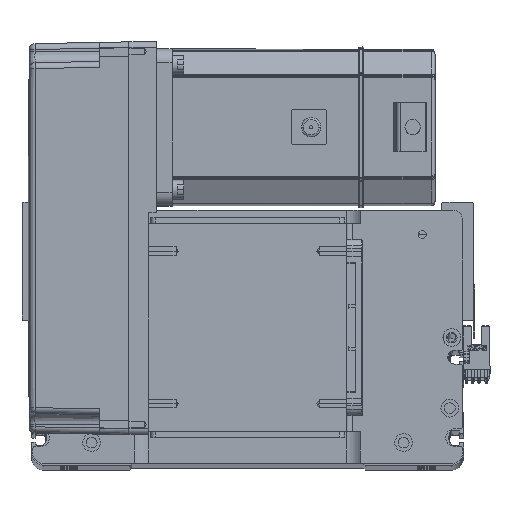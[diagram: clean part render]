
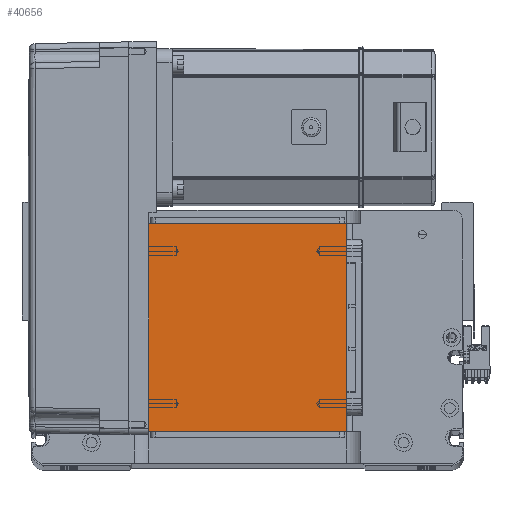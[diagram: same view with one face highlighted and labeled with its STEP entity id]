
A CAD part, top view. The second image highlights one B-rep face of the part: STEP entity #40656.
In plain terms, the highlighted planar face has unit normal (0, 0, 1).
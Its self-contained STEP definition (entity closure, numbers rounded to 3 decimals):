
#4985 = CARTESIAN_POINT ( 'NONE',  ( 50.5, 16., 115. ) ) ;
#5249 = EDGE_LOOP ( 'NONE', ( #12866, #19424, #46088, #21496 ) ) ;
#11528 = FACE_OUTER_BOUND ( 'NONE', #5249, .T. ) ;
#12019 = DIRECTION ( 'NONE',  ( -1., 0., 0. ) ) ;
#12866 = ORIENTED_EDGE ( 'NONE', *, *, #31229, .T. ) ;
#16225 = DIRECTION ( 'NONE',  ( 0., -1., 0. ) ) ;
#17628 = AXIS2_PLACEMENT_3D ( 'NONE', #17987, #46784, #51456 ) ;
#17987 = CARTESIAN_POINT ( 'NONE',  ( 0., 0., 115. ) ) ;
#18087 = CARTESIAN_POINT ( 'NONE',  ( 50.5, 122., 115. ) ) ;
#18533 = PLANE ( 'NONE',  #17628 ) ;
#19424 = ORIENTED_EDGE ( 'NONE', *, *, #28074, .T. ) ;
#19930 = CARTESIAN_POINT ( 'NONE',  ( -50.5, 122., 115. ) ) ;
#21496 = ORIENTED_EDGE ( 'NONE', *, *, #37465, .T. ) ;
#24085 = DIRECTION ( 'NONE',  ( 1., 0., 0. ) ) ;
#25444 = DIRECTION ( 'NONE',  ( 0., 1., 0. ) ) ;
#28074 = EDGE_CURVE ( 'NONE', #37269, #51031, #47184, .T. ) ;
#28453 = CARTESIAN_POINT ( 'NONE',  ( -50.5, 16., 115. ) ) ;
#28814 = CARTESIAN_POINT ( 'NONE',  ( -50.5, 122., 115. ) ) ;
#31229 = EDGE_CURVE ( 'NONE', #33760, #37269, #43053, .T. ) ;
#31702 = VECTOR ( 'NONE', #25444, 1000. ) ;
#32049 = VERTEX_POINT ( 'NONE', #18087 ) ;
#33586 = CARTESIAN_POINT ( 'NONE',  ( 50.5, 122., 115. ) ) ;
#33760 = VERTEX_POINT ( 'NONE', #34890 ) ;
#34890 = CARTESIAN_POINT ( 'NONE',  ( -50.5, 122., 115. ) ) ;
#36885 = LINE ( 'NONE', #33586, #31702 ) ;
#37269 = VERTEX_POINT ( 'NONE', #46506 ) ;
#37465 = EDGE_CURVE ( 'NONE', #32049, #33760, #48424, .T. ) ;
#40656 = ADVANCED_FACE ( 'NONE', ( #11528 ), #18533, .T. ) ;
#43053 = LINE ( 'NONE', #28814, #48215 ) ;
#45736 = EDGE_CURVE ( 'NONE', #51031, #32049, #36885, .T. ) ;
#46088 = ORIENTED_EDGE ( 'NONE', *, *, #45736, .T. ) ;
#46506 = CARTESIAN_POINT ( 'NONE',  ( -50.5, 16., 115. ) ) ;
#46784 = DIRECTION ( 'NONE',  ( 0., 0., 1. ) ) ;
#47184 = LINE ( 'NONE', #28453, #52364 ) ;
#48215 = VECTOR ( 'NONE', #16225, 1000. ) ;
#48424 = LINE ( 'NONE', #19930, #50316 ) ;
#50316 = VECTOR ( 'NONE', #12019, 1000. ) ;
#51031 = VERTEX_POINT ( 'NONE', #4985 ) ;
#51456 = DIRECTION ( 'NONE',  ( 1., 0., 0. ) ) ;
#52364 = VECTOR ( 'NONE', #24085, 1000. ) ;
